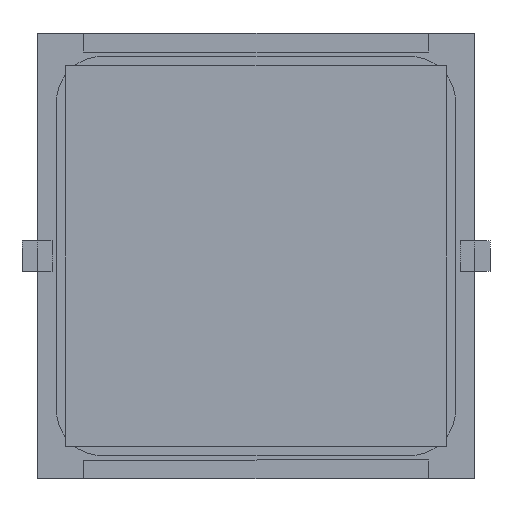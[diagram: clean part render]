
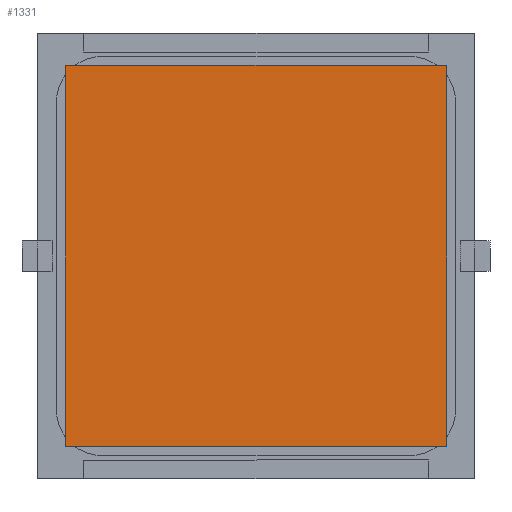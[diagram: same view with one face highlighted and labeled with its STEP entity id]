
A CAD part, front view. The second image highlights one B-rep face of the part: STEP entity #1331.
In plain terms, the highlighted planar face has unit normal (0, -1, 0).
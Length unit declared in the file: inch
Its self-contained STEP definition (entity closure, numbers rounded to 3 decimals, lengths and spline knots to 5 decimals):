
#539 = CARTESIAN_POINT ( 'NONE',  ( 0.5, -0.005, -0.5 ) ) ;
#1026 = CARTESIAN_POINT ( 'NONE',  ( 0.5, -0.005, -0.5 ) ) ;
#1157 = LINE ( 'NONE', #10030, #6864 ) ;
#1331 = ADVANCED_FACE ( 'NONE', ( #11248 ), #8385, .F. ) ;
#1538 = EDGE_CURVE ( 'NONE', #9069, #9508, #5676, .T. ) ;
#1636 = CARTESIAN_POINT ( 'NONE',  ( -0.5, -0.005, 0.5 ) ) ;
#2184 = EDGE_CURVE ( 'NONE', #2981, #9069, #10993, .T. ) ;
#2193 = DIRECTION ( 'NONE',  ( 0., 0., -1. ) ) ;
#2477 = DIRECTION ( 'NONE',  ( 0., 0., 1. ) ) ;
#2981 = VERTEX_POINT ( 'NONE', #10790 ) ;
#3104 = DIRECTION ( 'NONE',  ( 0., 1., 0. ) ) ;
#3331 = VECTOR ( 'NONE', #8480, 39.37008 ) ;
#3864 = EDGE_CURVE ( 'NONE', #10941, #2981, #1157, .T. ) ;
#4543 = EDGE_CURVE ( 'NONE', #9508, #10941, #10365, .T. ) ;
#4767 = ORIENTED_EDGE ( 'NONE', *, *, #4543, .F. ) ;
#5676 = LINE ( 'NONE', #7427, #3331 ) ;
#5796 = EDGE_LOOP ( 'NONE', ( #8706, #7759, #4767, #6116 ) ) ;
#5928 = VECTOR ( 'NONE', #10125, 39.37008 ) ;
#6116 = ORIENTED_EDGE ( 'NONE', *, *, #1538, .F. ) ;
#6549 = CARTESIAN_POINT ( 'NONE',  ( -0.5, -0.005, -0.5 ) ) ;
#6864 = VECTOR ( 'NONE', #8113, 39.37008 ) ;
#7427 = CARTESIAN_POINT ( 'NONE',  ( -0.5, -0.005, 0.5 ) ) ;
#7759 = ORIENTED_EDGE ( 'NONE', *, *, #3864, .F. ) ;
#8113 = DIRECTION ( 'NONE',  ( -1., 0., 0. ) ) ;
#8385 = PLANE ( 'NONE',  #9537 ) ;
#8480 = DIRECTION ( 'NONE',  ( 1., 0., 0. ) ) ;
#8706 = ORIENTED_EDGE ( 'NONE', *, *, #2184, .F. ) ;
#9069 = VERTEX_POINT ( 'NONE', #1636 ) ;
#9508 = VERTEX_POINT ( 'NONE', #10768 ) ;
#9537 = AXIS2_PLACEMENT_3D ( 'NONE', #11142, #3104, #2477 ) ;
#10030 = CARTESIAN_POINT ( 'NONE',  ( -0.5, -0.005, -0.5 ) ) ;
#10125 = DIRECTION ( 'NONE',  ( 0., 0., 1. ) ) ;
#10365 = LINE ( 'NONE', #539, #10648 ) ;
#10648 = VECTOR ( 'NONE', #2193, 39.37008 ) ;
#10768 = CARTESIAN_POINT ( 'NONE',  ( 0.5, -0.005, 0.5 ) ) ;
#10790 = CARTESIAN_POINT ( 'NONE',  ( -0.5, -0.005, -0.5 ) ) ;
#10941 = VERTEX_POINT ( 'NONE', #1026 ) ;
#10993 = LINE ( 'NONE', #6549, #5928 ) ;
#11142 = CARTESIAN_POINT ( 'NONE',  ( -0.5, -0.005, 0.5 ) ) ;
#11248 = FACE_OUTER_BOUND ( 'NONE', #5796, .T. ) ;
